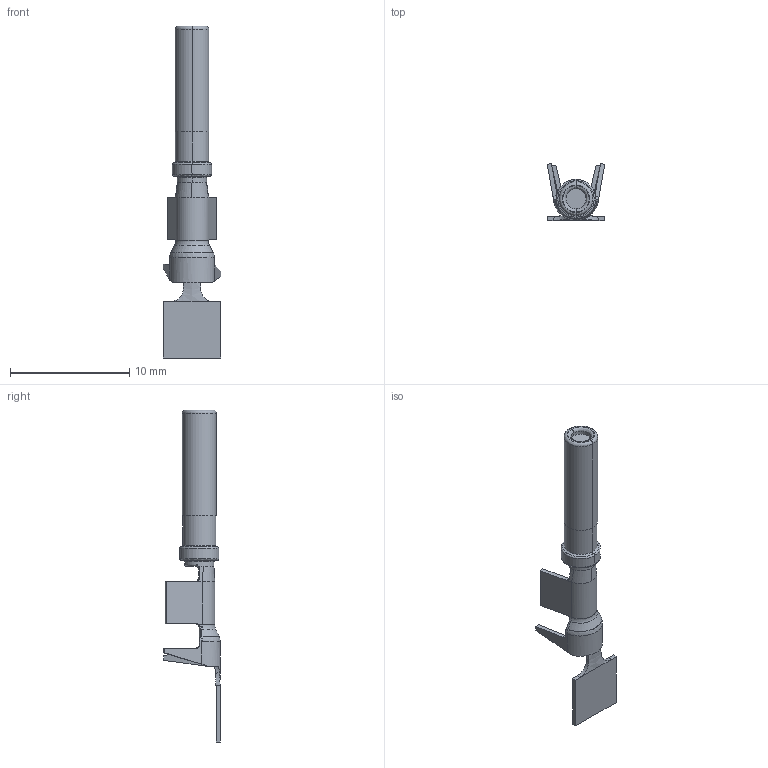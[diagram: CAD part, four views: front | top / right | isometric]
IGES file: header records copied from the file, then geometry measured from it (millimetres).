
Start section:  PTC IGES file: c-1062-16-1222-c-3d.igs
Global section: file name: c-1062-16-1222-c-3d.igs; native system: Creo Parametric by Parametric Technology Corporation; preprocessor: 2013050; author: workeradm; organization: Unknown; units: millimetre
Bounding box: 4.82 x 4.77 x 27.83 mm (x, y, z)
Surface area: 330.1 mm2 (no closed solid volume)
Topology: 0 solids, 0 shells, 123 faces, 620 edges, 620 vertices
Faces by surface type: bspline 88, revolution 35
